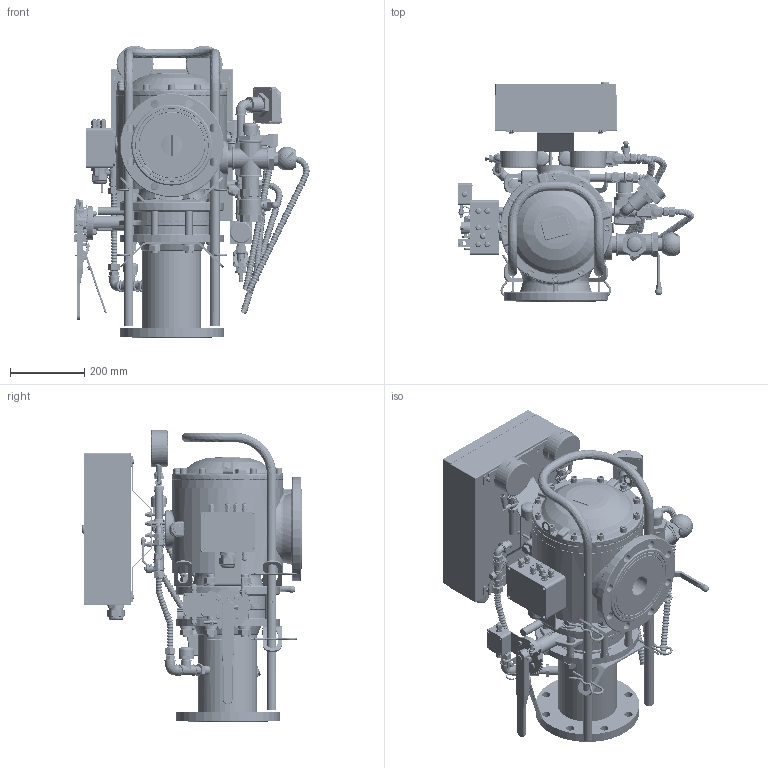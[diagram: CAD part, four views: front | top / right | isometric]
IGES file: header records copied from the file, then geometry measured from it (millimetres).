
Start section: File generated by T-FLEX CAD Version (null)
Global section: file name: 150.igs; native system: T-FLEX CAD; date: 211014.104225; units: millimetre
Bounding box: 634.94 x 592.58 x 787.5 mm (x, y, z)
Volume: 12320253.3 mm3; surface area: 5257020.7 mm2
Topology: 684 solids, 689 shells, 17734 faces, 42959 edges, 25686 vertices
Faces by surface type: plane 6057, cylinder 5475, bspline 2354, cone 1728, revolution 1352, sphere 768
Full cylindrical faces by diameter (mm): 49 x1
